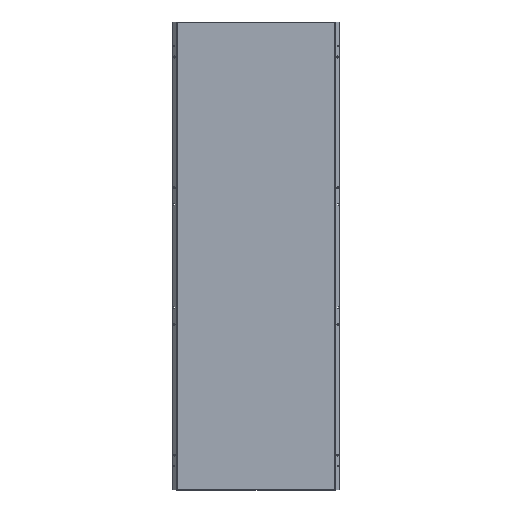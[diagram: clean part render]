
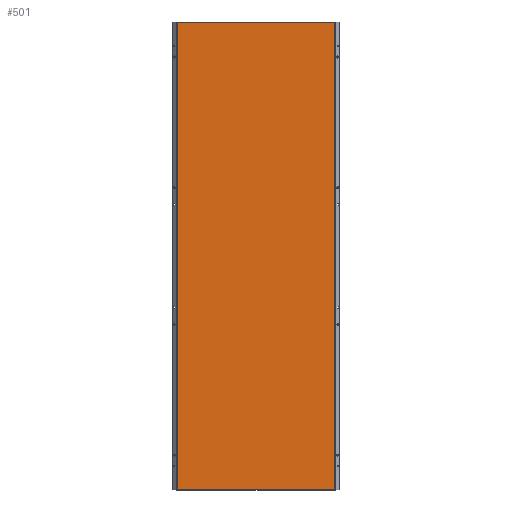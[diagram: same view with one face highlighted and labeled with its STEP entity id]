
A CAD part, top view. The second image highlights one B-rep face of the part: STEP entity #501.
In plain terms, the highlighted planar face has unit normal (0, 0, 1).
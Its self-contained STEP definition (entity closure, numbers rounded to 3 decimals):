
#501 = ADVANCED_FACE ( 'NONE', ( #638 ), #7887, .F. ) ;
#638 = FACE_OUTER_BOUND ( 'NONE', #5212, .T. ) ;
#884 = CARTESIAN_POINT ( 'NONE',  ( -361.5, 1070.5, 0. ) ) ;
#974 = EDGE_CURVE ( 'NONE', #5564, #4570, #1833, .T. ) ;
#1007 = EDGE_CURVE ( 'NONE', #3578, #4450, #1105, .T. ) ;
#1105 = LINE ( 'NONE', #5992, #7467 ) ;
#1223 = DIRECTION ( 'NONE',  ( -1., 0., 0. ) ) ;
#1605 = CARTESIAN_POINT ( 'NONE',  ( -361.5, -1070.5, 0. ) ) ;
#1795 = CARTESIAN_POINT ( 'NONE',  ( 361.5, 1070.5, 0. ) ) ;
#1833 = LINE ( 'NONE', #1908, #2098 ) ;
#1843 = DIRECTION ( 'NONE',  ( 0., 0., -1. ) ) ;
#1908 = CARTESIAN_POINT ( 'NONE',  ( -361.5, 1070.5, 0. ) ) ;
#2098 = VECTOR ( 'NONE', #1223, 1000. ) ;
#2311 = DIRECTION ( 'NONE',  ( 0., 1., 0. ) ) ;
#2747 = DIRECTION ( 'NONE',  ( 0., -1., 0. ) ) ;
#2753 = EDGE_CURVE ( 'NONE', #4450, #5564, #5196, .T. ) ;
#3151 = ORIENTED_EDGE ( 'NONE', *, *, #974, .T. ) ;
#3578 = VERTEX_POINT ( 'NONE', #1605 ) ;
#3871 = LINE ( 'NONE', #4550, #5191 ) ;
#4284 = DIRECTION ( 'NONE',  ( -1., 0., 0. ) ) ;
#4450 = VERTEX_POINT ( 'NONE', #5818 ) ;
#4550 = CARTESIAN_POINT ( 'NONE',  ( -361.5, -1070.5, 0. ) ) ;
#4570 = VERTEX_POINT ( 'NONE', #884 ) ;
#4713 = VECTOR ( 'NONE', #2311, 1000. ) ;
#5191 = VECTOR ( 'NONE', #2747, 1000. ) ;
#5196 = LINE ( 'NONE', #7635, #4713 ) ;
#5212 = EDGE_LOOP ( 'NONE', ( #5606, #3151, #6861, #7439 ) ) ;
#5564 = VERTEX_POINT ( 'NONE', #1795 ) ;
#5606 = ORIENTED_EDGE ( 'NONE', *, *, #2753, .T. ) ;
#5699 = EDGE_CURVE ( 'NONE', #4570, #3578, #3871, .T. ) ;
#5818 = CARTESIAN_POINT ( 'NONE',  ( 361.5, -1070.5, 0. ) ) ;
#5992 = CARTESIAN_POINT ( 'NONE',  ( -361.5, -1070.5, 0. ) ) ;
#6861 = ORIENTED_EDGE ( 'NONE', *, *, #5699, .T. ) ;
#7329 = CARTESIAN_POINT ( 'NONE',  ( 0., 0., 0. ) ) ;
#7439 = ORIENTED_EDGE ( 'NONE', *, *, #1007, .T. ) ;
#7467 = VECTOR ( 'NONE', #7838, 1000. ) ;
#7635 = CARTESIAN_POINT ( 'NONE',  ( 361.5, -1070.5, 0. ) ) ;
#7737 = AXIS2_PLACEMENT_3D ( 'NONE', #7329, #1843, #4284 ) ;
#7838 = DIRECTION ( 'NONE',  ( 1., 0., 0. ) ) ;
#7887 = PLANE ( 'NONE',  #7737 ) ;
